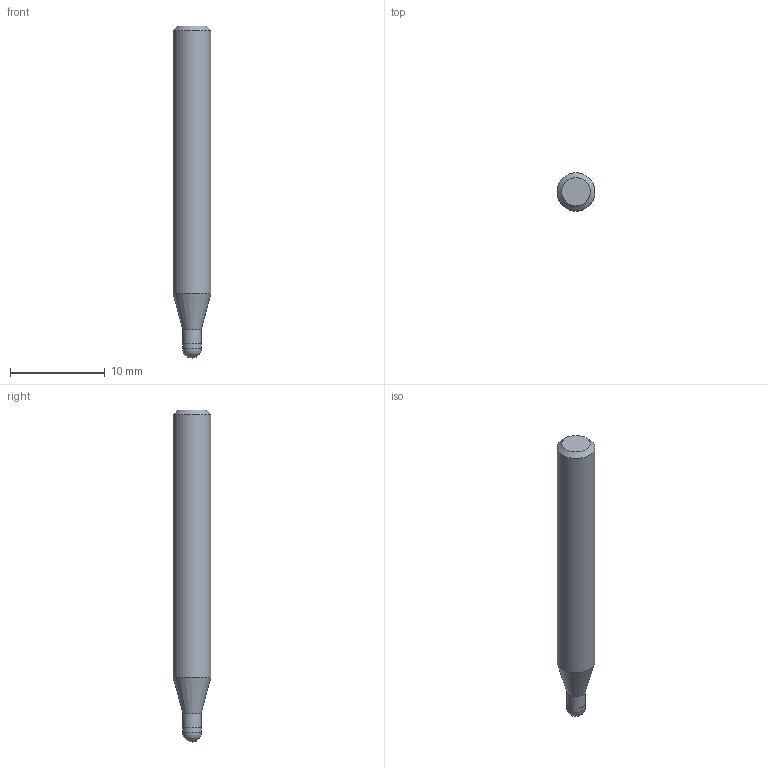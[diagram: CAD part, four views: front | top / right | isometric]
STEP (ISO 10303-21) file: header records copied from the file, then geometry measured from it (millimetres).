
FILE_DESCRIPTION((''),'2;1');
FILE_NAME('C:\Users\nsx150\AppData\Local\Temp\Mastercam 2021\QT8KEW0Y7J\TEMP.step','2021-04-23T11:21:27',(''),(''),'STEP Write','Mastercam 2021 ... CNC Software, Inc.','');
FILE_SCHEMA(('AUTOMOTIVE_DESIGN'));
Length unit declared in the file: millimetre
Products named in the file (1): None
Bounding box: 4 x 4 x 35 mm (x, y, z)
Volume: 388.2 mm3; surface area: 424.2 mm2
Topology: 2 solids, 2 shells, 9 faces, 14 edges, 8 vertices
Faces by surface type: plane 3, cylinder 3, cone 2, sphere 1
Full cylindrical faces by diameter (mm): 1.94 x1, 2 x1, 4 x1
Entity records: 211 total; most frequent: DIRECTION 36, CARTESIAN_POINT 25, AXIS2_PLACEMENT_3D 18, ORIENTED_EDGE 14, EDGE_LOOP 14, STYLED_ITEM 12, ADVANCED_FACE 9, FACE_BOUND 8
